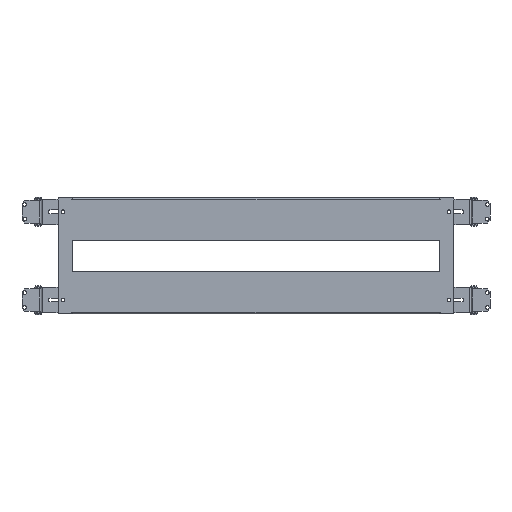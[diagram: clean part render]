
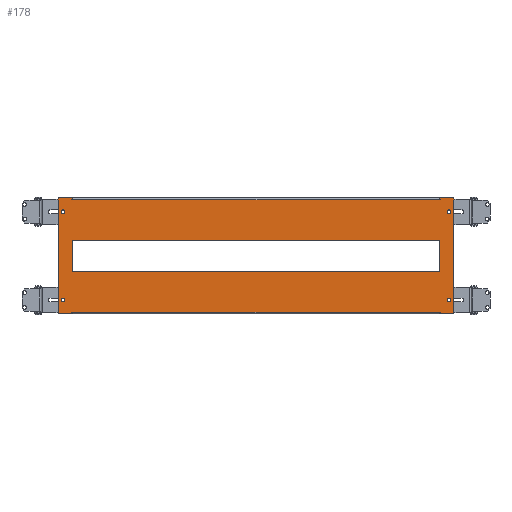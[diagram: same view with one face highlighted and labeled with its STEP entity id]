
A CAD part, top view. The second image highlights one B-rep face of the part: STEP entity #178.
In plain terms, the highlighted planar face has unit normal (0, 0, 1).
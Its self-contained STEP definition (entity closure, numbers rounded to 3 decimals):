
#178=ADVANCED_FACE('',(#4668,#4670,#4672,#4674,#4676,#4678),#4680,.F.);
#4668=FACE_BOUND('',#4669,.T.);
#4669=EDGE_LOOP('',(#8929,#8930,#8931,#8932,#8933,#8934,#8935,#8936,#8937,#8938,
#8939,#8940,#8941,#8942,#8943,#8944));
#4670=FACE_BOUND('',#4671,.T.);
#4671=EDGE_LOOP('',(#8945,#8946,#8947,#8948));
#4672=FACE_BOUND('',#4673,.T.);
#4673=EDGE_LOOP('',(#8949));
#4674=FACE_BOUND('',#4675,.T.);
#4675=EDGE_LOOP('',(#8950));
#4676=FACE_BOUND('',#4677,.T.);
#4677=EDGE_LOOP('',(#8951));
#4678=FACE_BOUND('',#4679,.T.);
#4679=EDGE_LOOP('',(#8952));
#4680=PLANE('',#4681);
#4681=AXIS2_PLACEMENT_3D('',#4682,#4683,#4684);
#4682=CARTESIAN_POINT('',(0.,0.,0.));
#4683=DIRECTION('',(0.,0.,-1.));
#4684=DIRECTION('',(-1.,0.,0.));
#8929=ORIENTED_EDGE('',*,*,#11141,.F.);
#8930=ORIENTED_EDGE('',*,*,#11142,.T.);
#8931=ORIENTED_EDGE('',*,*,#11143,.F.);
#8932=ORIENTED_EDGE('',*,*,#11144,.F.);
#8933=ORIENTED_EDGE('',*,*,#11145,.T.);
#8934=ORIENTED_EDGE('',*,*,#11146,.T.);
#8935=ORIENTED_EDGE('',*,*,#11147,.T.);
#8936=ORIENTED_EDGE('',*,*,#11148,.F.);
#8937=ORIENTED_EDGE('',*,*,#11149,.F.);
#8938=ORIENTED_EDGE('',*,*,#11150,.T.);
#8939=ORIENTED_EDGE('',*,*,#11151,.F.);
#8940=ORIENTED_EDGE('',*,*,#11152,.F.);
#8941=ORIENTED_EDGE('',*,*,#11153,.T.);
#8942=ORIENTED_EDGE('',*,*,#11154,.T.);
#8943=ORIENTED_EDGE('',*,*,#11155,.T.);
#8944=ORIENTED_EDGE('',*,*,#11156,.F.);
#8945=ORIENTED_EDGE('',*,*,#11157,.F.);
#8946=ORIENTED_EDGE('',*,*,#11158,.F.);
#8947=ORIENTED_EDGE('',*,*,#11159,.F.);
#8948=ORIENTED_EDGE('',*,*,#11160,.F.);
#8949=ORIENTED_EDGE('',*,*,#11113,.T.);
#8950=ORIENTED_EDGE('',*,*,#11115,.T.);
#8951=ORIENTED_EDGE('',*,*,#11117,.F.);
#8952=ORIENTED_EDGE('',*,*,#11119,.F.);
#11113=EDGE_CURVE('',#12221,#12221,#12222,.T.);
#11115=EDGE_CURVE('',#12225,#12225,#12226,.T.);
#11117=EDGE_CURVE('',#12229,#12229,#12230,.T.);
#11119=EDGE_CURVE('',#12233,#12233,#12234,.T.);
#11141=EDGE_CURVE('',#12277,#12278,#12279,.T.);
#11142=EDGE_CURVE('',#12277,#12280,#12281,.T.);
#11143=EDGE_CURVE('',#12282,#12280,#12283,.T.);
#11144=EDGE_CURVE('',#12284,#12282,#12285,.T.);
#11145=EDGE_CURVE('',#12284,#12286,#12287,.T.);
#11146=EDGE_CURVE('',#12286,#12288,#12289,.T.);
#11147=EDGE_CURVE('',#12288,#12290,#12291,.T.);
#11148=EDGE_CURVE('',#12292,#12290,#12293,.T.);
#11149=EDGE_CURVE('',#12294,#12292,#12295,.T.);
#11150=EDGE_CURVE('',#12294,#12296,#12297,.T.);
#11151=EDGE_CURVE('',#12298,#12296,#12299,.T.);
#11152=EDGE_CURVE('',#12300,#12298,#12301,.T.);
#11153=EDGE_CURVE('',#12300,#12302,#12303,.T.);
#11154=EDGE_CURVE('',#12302,#12304,#12305,.T.);
#11155=EDGE_CURVE('',#12304,#12306,#12307,.T.);
#11156=EDGE_CURVE('',#12278,#12306,#12308,.T.);
#11157=EDGE_CURVE('',#12309,#12310,#12311,.T.);
#11158=EDGE_CURVE('',#12312,#12309,#12313,.T.);
#11159=EDGE_CURVE('',#12314,#12312,#12315,.T.);
#11160=EDGE_CURVE('',#12310,#12314,#12316,.T.);
#12221=VERTEX_POINT('',#14081);
#12222=CIRCLE('',#14082,3.15);
#12225=VERTEX_POINT('',#14091);
#12226=CIRCLE('',#14092,3.15);
#12229=VERTEX_POINT('',#14101);
#12230=CIRCLE('',#14102,3.15);
#12233=VERTEX_POINT('',#14111);
#12234=CIRCLE('',#14112,3.15);
#12277=VERTEX_POINT('',#14201);
#12278=VERTEX_POINT('',#14202);
#12279=LINE('',#14203,#14204);
#12280=VERTEX_POINT('',#14206);
#12281=LINE('',#14207,#14208);
#12282=VERTEX_POINT('',#14210);
#12283=LINE('',#14211,#14212);
#12284=VERTEX_POINT('',#14214);
#12285=LINE('',#14215,#14216);
#12286=VERTEX_POINT('',#14218);
#12287=LINE('',#14219,#14220);
#12288=VERTEX_POINT('',#14222);
#12289=LINE('',#14223,#14224);
#12290=VERTEX_POINT('',#14226);
#12291=LINE('',#14227,#14228);
#12292=VERTEX_POINT('',#14230);
#12293=LINE('',#14231,#14232);
#12294=VERTEX_POINT('',#14234);
#12295=LINE('',#14235,#14236);
#12296=VERTEX_POINT('',#14238);
#12297=LINE('',#14239,#14240);
#12298=VERTEX_POINT('',#14242);
#12299=LINE('',#14243,#14244);
#12300=VERTEX_POINT('',#14246);
#12301=LINE('',#14247,#14248);
#12302=VERTEX_POINT('',#14250);
#12303=LINE('',#14251,#14252);
#12304=VERTEX_POINT('',#14254);
#12305=LINE('',#14255,#14256);
#12306=VERTEX_POINT('',#14258);
#12307=LINE('',#14259,#14260);
#12308=LINE('',#14262,#14263);
#12309=VERTEX_POINT('',#14265);
#12310=VERTEX_POINT('',#14266);
#12311=LINE('',#14267,#14268);
#12312=VERTEX_POINT('',#14270);
#12313=LINE('',#14271,#14272);
#12314=VERTEX_POINT('',#14274);
#12315=LINE('',#14275,#14276);
#12316=LINE('',#14278,#14279);
#14081=CARTESIAN_POINT('',(331.15,75.,0.));
#14082=AXIS2_PLACEMENT_3D('',#14083,#14084,#14085);
#14083=CARTESIAN_POINT('',(328.,75.,0.));
#14084=DIRECTION('',(0.,0.,-1.));
#14085=DIRECTION('',(1.,0.,0.));
#14091=CARTESIAN_POINT('',(331.15,-75.,0.));
#14092=AXIS2_PLACEMENT_3D('',#14093,#14094,#14095);
#14093=CARTESIAN_POINT('',(328.,-75.,0.));
#14094=DIRECTION('',(0.,0.,-1.));
#14095=DIRECTION('',(1.,0.,0.));
#14101=CARTESIAN_POINT('',(-324.85,75.,0.));
#14102=AXIS2_PLACEMENT_3D('',#14103,#14104,#14105);
#14103=CARTESIAN_POINT('',(-328.,75.,0.));
#14104=DIRECTION('',(0.,0.,1.));
#14105=DIRECTION('',(-1.,0.,0.));
#14111=CARTESIAN_POINT('',(-324.85,-75.,0.));
#14112=AXIS2_PLACEMENT_3D('',#14113,#14114,#14115);
#14113=CARTESIAN_POINT('',(-328.,-75.,0.));
#14114=DIRECTION('',(0.,0.,1.));
#14115=DIRECTION('',(-1.,0.,0.));
#14201=CARTESIAN_POINT('',(311.,95.3,0.));
#14202=CARTESIAN_POINT('',(313.,95.3,0.));
#14203=CARTESIAN_POINT('',(311.,95.3,0.));
#14204=VECTOR('',#14205,1.);
#14205=DIRECTION('',(1.,0.,0.));
#14206=CARTESIAN_POINT('',(-311.,95.3,0.));
#14207=CARTESIAN_POINT('',(311.,95.3,0.));
#14208=VECTOR('',#14209,1.);
#14209=DIRECTION('',(-1.,0.,0.));
#14210=CARTESIAN_POINT('',(-313.,95.3,0.));
#14211=CARTESIAN_POINT('',(-313.,95.3,0.));
#14212=VECTOR('',#14213,1.);
#14213=DIRECTION('',(1.,0.,0.));
#14214=CARTESIAN_POINT('',(-313.,98.5,0.));
#14215=CARTESIAN_POINT('',(-313.,98.5,0.));
#14216=VECTOR('',#14217,1.);
#14217=DIRECTION('',(0.,-1.,0.));
#14218=CARTESIAN_POINT('',(-336.,98.5,0.));
#14219=CARTESIAN_POINT('',(-313.,98.5,0.));
#14220=VECTOR('',#14221,1.);
#14221=DIRECTION('',(-1.,0.,0.));
#14222=CARTESIAN_POINT('',(-336.,-98.5,0.));
#14223=CARTESIAN_POINT('',(-336.,98.5,0.));
#14224=VECTOR('',#14225,1.);
#14225=DIRECTION('',(0.,-1.,0.));
#14226=CARTESIAN_POINT('',(-313.,-98.5,0.));
#14227=CARTESIAN_POINT('',(-336.,-98.5,0.));
#14228=VECTOR('',#14229,1.);
#14229=DIRECTION('',(1.,0.,0.));
#14230=CARTESIAN_POINT('',(-313.,-95.3,0.));
#14231=CARTESIAN_POINT('',(-313.,-95.3,0.));
#14232=VECTOR('',#14233,1.);
#14233=DIRECTION('',(0.,-1.,0.));
#14234=CARTESIAN_POINT('',(-311.,-95.3,0.));
#14235=CARTESIAN_POINT('',(-311.,-95.3,0.));
#14236=VECTOR('',#14237,1.);
#14237=DIRECTION('',(-1.,0.,0.));
#14238=CARTESIAN_POINT('',(311.,-95.3,0.));
#14239=CARTESIAN_POINT('',(-311.,-95.3,0.));
#14240=VECTOR('',#14241,1.);
#14241=DIRECTION('',(1.,0.,0.));
#14242=CARTESIAN_POINT('',(313.,-95.3,0.));
#14243=CARTESIAN_POINT('',(313.,-95.3,0.));
#14244=VECTOR('',#14245,1.);
#14245=DIRECTION('',(-1.,0.,0.));
#14246=CARTESIAN_POINT('',(313.,-98.5,0.));
#14247=CARTESIAN_POINT('',(313.,-98.5,0.));
#14248=VECTOR('',#14249,1.);
#14249=DIRECTION('',(0.,1.,0.));
#14250=CARTESIAN_POINT('',(336.,-98.5,0.));
#14251=CARTESIAN_POINT('',(313.,-98.5,0.));
#14252=VECTOR('',#14253,1.);
#14253=DIRECTION('',(1.,0.,0.));
#14254=CARTESIAN_POINT('',(336.,98.5,0.));
#14255=CARTESIAN_POINT('',(336.,-98.5,0.));
#14256=VECTOR('',#14257,1.);
#14257=DIRECTION('',(0.,1.,0.));
#14258=CARTESIAN_POINT('',(313.,98.5,0.));
#14259=CARTESIAN_POINT('',(336.,98.5,0.));
#14260=VECTOR('',#14261,1.);
#14261=DIRECTION('',(-1.,0.,0.));
#14262=CARTESIAN_POINT('',(313.,95.3,0.));
#14263=VECTOR('',#14264,1.);
#14264=DIRECTION('',(0.,1.,0.));
#14265=CARTESIAN_POINT('',(-312.5,-26.5,0.));
#14266=CARTESIAN_POINT('',(312.5,-26.5,0.));
#14267=CARTESIAN_POINT('',(-312.5,-26.5,0.));
#14268=VECTOR('',#14269,1.);
#14269=DIRECTION('',(1.,0.,0.));
#14270=CARTESIAN_POINT('',(-312.5,26.5,0.));
#14271=CARTESIAN_POINT('',(-312.5,26.5,0.));
#14272=VECTOR('',#14273,1.);
#14273=DIRECTION('',(0.,-1.,0.));
#14274=CARTESIAN_POINT('',(312.5,26.5,0.));
#14275=CARTESIAN_POINT('',(312.5,26.5,0.));
#14276=VECTOR('',#14277,1.);
#14277=DIRECTION('',(-1.,0.,0.));
#14278=CARTESIAN_POINT('',(312.5,-26.5,0.));
#14279=VECTOR('',#14280,1.);
#14280=DIRECTION('',(0.,1.,0.));
